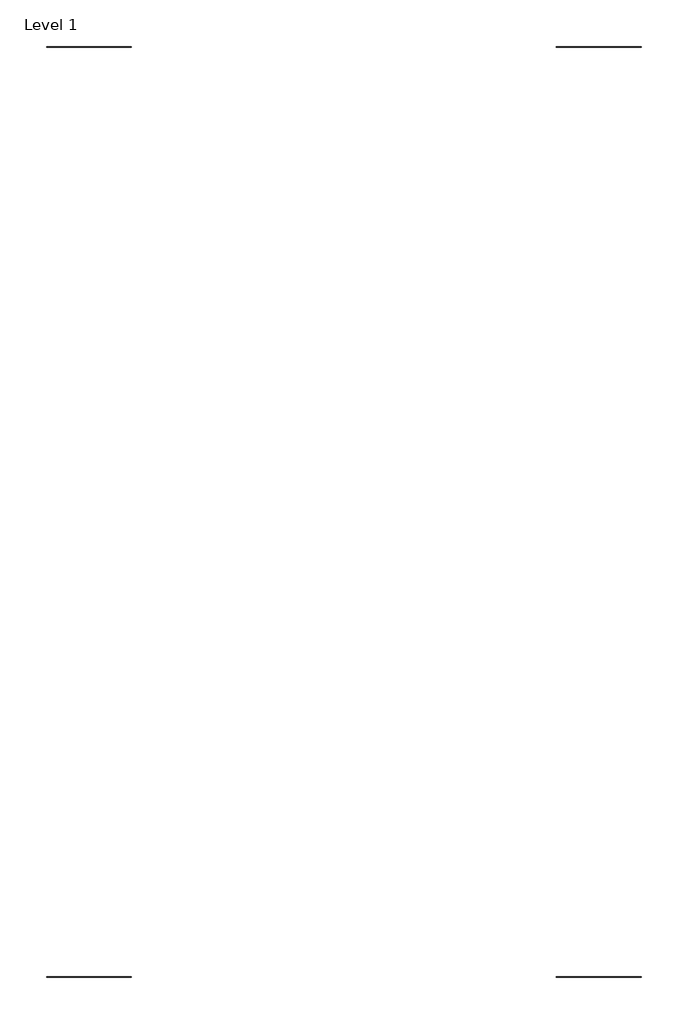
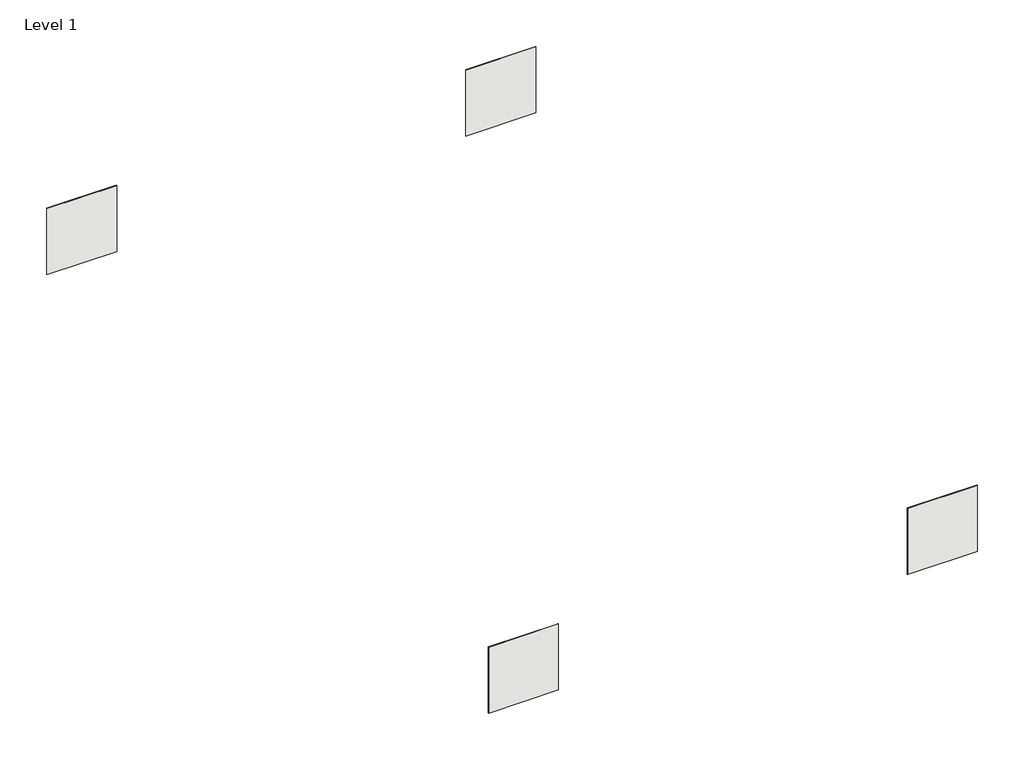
# One storey: 4 coverings.
"""IFC4 building model written with IfcOpenShell, lengths in millimetres."""

from ifc_helpers import new_model, si_unit, origin, origin_with_axes, place, context, project, spatial, polyline, outline, extrude, element, save

model = new_model("IFC4")

# Units and contexts
model_context = context("Model", 3, world=origin())
ifc_project = project(units=[si_unit("LENGTHUNIT", "METRE", prefix="MILLI")], contexts=[model_context])

# Site, building, storey
site = spatial("IfcSite", under=ifc_project)
building = spatial("IfcBuilding", under=site)
storey = spatial("IfcBuildingStorey", under=building, Name="Level 1", Elevation=0.0)

# Coverings
placement = place(None, origin())
element("IfcCovering", 1, ObjectType="LOVE TILES-SENSE-SCRATCH DECORATION-35x100-MATT RECTIFIED-BEIGE", at=placement, inside=storey, context=model_context, shape_type="SweptSolid", body=[
    extrude(outline(polyline([(28997.0720096, -26211.6013387), (27997.0720096, -26211.6013387), (27997.0720096, -26203.5013387), (28997.0720096, -26203.5013387), (28997.0720096, -26211.6013387)])), origin_with_axes(), (0.0, 0.0, 1.0), 1000.0),
])
element("IfcCovering", 2, ObjectType="LOVE TILES-SENSE-SCRATCH DECORATION-35x100-MATT RECTIFIED-GREY", at=placement, inside=storey, context=model_context, shape_type="SweptSolid", body=[
    extrude(outline(polyline([(34997.0720096, -26211.6013387), (33997.0720096, -26211.6013387), (33997.0720096, -26203.5013387), (34997.0720096, -26203.5013387), (34997.0720096, -26211.6013387)])), origin_with_axes(), (0.0, 0.0, 1.0), 1000.0),
])
element("IfcCovering", 3, ObjectType="LOVE TILES-SENSE-SCRATCH DECORATION-35x100-MATT RECTIFIED-LIGHT GREY", at=placement, inside=storey, context=model_context, shape_type="SweptSolid", body=[
    extrude(outline(polyline([(28997.0720096, -37163.1937558), (27997.0720096, -37163.1937558), (27997.0720096, -37155.0937558), (28997.0720096, -37155.0937558), (28997.0720096, -37163.1937558)])), origin_with_axes(), (0.0, 0.0, 1.0), 1000.0),
])
element("IfcCovering", 4, ObjectType="LOVE TILES-SENSE-SCRATCH DECORATION-35x100-MATT RECTIFIED-WHITE", at=placement, inside=storey, context=model_context, shape_type="SweptSolid", body=[
    extrude(outline(polyline([(34997.0720096, -37163.1937558), (33997.0720096, -37163.1937558), (33997.0720096, -37155.0937558), (34997.0720096, -37155.0937558), (34997.0720096, -37163.1937558)])), origin_with_axes(), (0.0, 0.0, 1.0), 1000.0),
])

save(model, "model.ifc")
